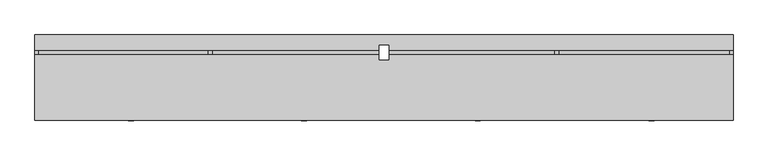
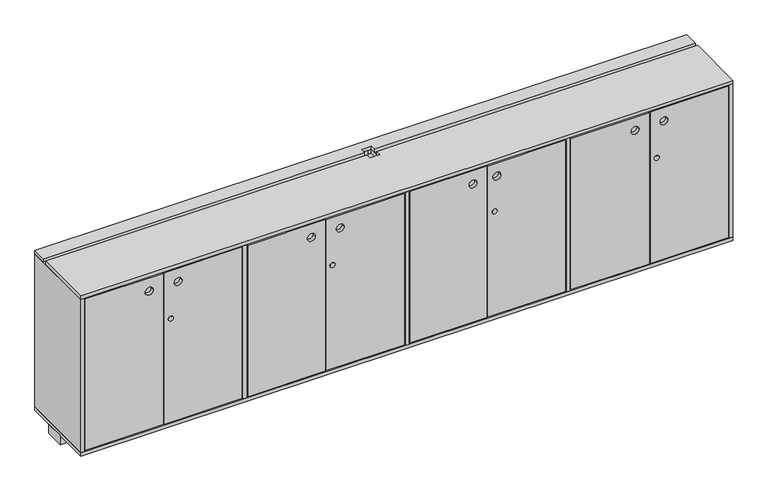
"""IFC4 building model written with IfcOpenShell, lengths in millimetres: furniture geometry, C15 Mueble mostrador 4 modulos : C15 Mueble mostrador 4 modulos."""

from ifc_helpers import new_model, si_unit, point, frame, frame_2d, origin, origin_with_axes, place, context, project, spatial, polyline, circle_curve, trimmed, segment, composite_curve, outline, extrude, source, transform, mapped, element, save


def furniture_98008c16(model_context):
    return source(origin(), model_context, "Body", "SweptSolid", [
        extrude(outline(composite_curve([segment(trimmed(circle_curve(frame_2d((624.0, 1298.8253264)), 12.5), [point((624.0, 1286.3253264))], [point((624.0, 1311.3253264))], False, "CARTESIAN"), True, "CONTINUOUS"), segment(trimmed(circle_curve(frame_2d((624.0, 1298.8253264)), 12.5), [point((624.0, 1311.3253264))], [point((624.0, 1286.3253264))], False, "CARTESIAN"), True, "CONTINUOUS")], self_intersect=False)), frame((0.0, -402.0, 0.0), z_axis=(0.0, 1.0, 0.0), x_axis=(0.0, 0.0, 1.0)), (0.0, 0.0, 1.0), 20.0),
        extrude(outline(composite_curve([segment(trimmed(circle_curve(frame_2d((624.0, 484.5753264)), 12.5), [point((624.0, 472.0753264))], [point((624.0, 497.0753264))], False, "CARTESIAN"), True, "CONTINUOUS"), segment(trimmed(circle_curve(frame_2d((624.0, 484.5753264)), 12.5), [point((624.0, 497.0753264))], [point((624.0, 472.0753264))], False, "CARTESIAN"), True, "CONTINUOUS")], self_intersect=False)), frame((0.0, -402.0, 0.0), z_axis=(0.0, 1.0, 0.0), x_axis=(0.0, 0.0, 1.0)), (0.0, 0.0, 1.0), 20.0),
        extrude(outline(composite_curve([segment(trimmed(circle_curve(frame_2d((624.0, -329.9246736)), 12.5), [point((624.0, -342.4246736))], [point((624.0, -317.4246736))], False, "CARTESIAN"), True, "CONTINUOUS"), segment(trimmed(circle_curve(frame_2d((624.0, -329.9246736)), 12.5), [point((624.0, -317.4246736))], [point((624.0, -342.4246736))], False, "CARTESIAN"), True, "CONTINUOUS")], self_intersect=False)), frame((0.0, -402.0, 0.0), z_axis=(0.0, 1.0, 0.0), x_axis=(0.0, 0.0, 1.0)), (0.0, 0.0, 1.0), 20.0),
        extrude(outline(composite_curve([segment(trimmed(circle_curve(frame_2d((624.0, -1141.6746736)), 12.5), [point((624.0, -1154.1746736))], [point((624.0, -1129.1746736))], False, "CARTESIAN"), True, "CONTINUOUS"), segment(trimmed(circle_curve(frame_2d((624.0, -1141.6746736)), 12.5), [point((624.0, -1129.1746736))], [point((624.0, -1154.1746736))], False, "CARTESIAN"), True, "CONTINUOUS")], self_intersect=False)), frame((0.0, -402.0, 0.0), z_axis=(0.0, 1.0, 0.0), x_axis=(0.0, 0.0, 1.0)), (0.0, 0.0, 1.0), 20.0),
        extrude(outline(polyline([(1682.2003264, -220.0), (-1592.7996736, -220.0), (-1592.7996736, -120.0), (-1542.7996736, -120.0), (-1542.7996736, -170.0), (1632.2003264, -170.0), (1632.2003264, -120.0), (1682.2003264, -120.0), (1682.2003264, -220.0)])), origin_with_axes(), (0.0, 0.0, 1.0), 50.0),
        extrude(outline(polyline([(877.0, 1266.3253264), (73.0, 1266.3253264), (73.0, 1659.2003264), (877.0, 1659.2003264), (877.0, 1266.3253264)]), holes=[composite_curve([segment(trimmed(circle_curve(frame_2d((807.0, 1336.3253264)), 20.0), [point((807.0, 1356.3253264))], [point((807.0, 1316.3253264))], True, "CARTESIAN"), True, "CONTINUOUS"), segment(trimmed(circle_curve(frame_2d((807.0, 1336.3253264)), 20.0), [point((807.0, 1316.3253264))], [point((807.0, 1356.3253264))], True, "CARTESIAN"), True, "CONTINUOUS")], self_intersect=False)]), frame((0.0, -400.0, 0.0), z_axis=(0.0, 1.0, 0.0), x_axis=(0.0, 0.0, 1.0)), (0.0, 0.0, 1.0), 18.0),
        extrude(outline(polyline([(877.0, 1261.3253264), (877.0, 868.4503264), (73.0, 868.4503264), (73.0, 1261.3253264), (877.0, 1261.3253264)]), holes=[composite_curve([segment(trimmed(circle_curve(frame_2d((807.0, 1191.3253264)), 20.0), [point((807.0, 1171.3253264))], [point((807.0, 1211.3253264))], True, "CARTESIAN"), True, "CONTINUOUS"), segment(trimmed(circle_curve(frame_2d((807.0, 1191.3253264)), 20.0), [point((807.0, 1211.3253264))], [point((807.0, 1171.3253264))], True, "CARTESIAN"), True, "CONTINUOUS")], self_intersect=False)]), frame((0.0, -400.0, 0.0), z_axis=(0.0, 1.0, 0.0), x_axis=(0.0, 0.0, 1.0)), (0.0, 0.0, 1.0), 18.0),
        extrude(outline(polyline([(877.0, 452.0753264), (73.0, 452.0753264), (73.0, 840.4503264), (877.0, 840.4503264), (877.0, 452.0753264)]), holes=[composite_curve([segment(trimmed(circle_curve(frame_2d((807.0, 496.7003264)), 20.0), [point((807.0, 516.7003264))], [point((807.0, 476.7003264))], True, "CARTESIAN"), True, "CONTINUOUS"), segment(trimmed(circle_curve(frame_2d((807.0, 496.7003264)), 20.0), [point((807.0, 476.7003264))], [point((807.0, 516.7003264))], True, "CARTESIAN"), True, "CONTINUOUS")], self_intersect=False)]), frame((0.0, -400.0, 0.0), z_axis=(0.0, 1.0, 0.0), x_axis=(0.0, 0.0, 1.0)), (0.0, 0.0, 1.0), 18.0),
        extrude(outline(polyline([(877.0, 447.0753264), (877.0, 58.7003264), (73.0, 58.7003264), (73.0, 447.0753264), (877.0, 447.0753264)]), holes=[composite_curve([segment(trimmed(circle_curve(frame_2d((807.0, 377.0753264)), 20.0), [point((807.0, 357.0753264))], [point((807.0, 397.0753264))], True, "CARTESIAN"), True, "CONTINUOUS"), segment(trimmed(circle_curve(frame_2d((807.0, 377.0753264)), 20.0), [point((807.0, 397.0753264))], [point((807.0, 357.0753264))], True, "CARTESIAN"), True, "CONTINUOUS")], self_intersect=False)]), frame((0.0, -400.0, 0.0), z_axis=(0.0, 1.0, 0.0), x_axis=(0.0, 0.0, 1.0)), (0.0, 0.0, 1.0), 18.0),
        extrude(outline(polyline([(877.0, -359.9246736), (73.0, -359.9246736), (73.0, 30.7003264), (877.0, 30.7003264), (877.0, -359.9246736)]), holes=[composite_curve([segment(trimmed(circle_curve(frame_2d((807.0, -289.9246736)), 20.0), [point((807.0, -269.9246736))], [point((807.0, -309.9246736))], True, "CARTESIAN"), True, "CONTINUOUS"), segment(trimmed(circle_curve(frame_2d((807.0, -289.9246736)), 20.0), [point((807.0, -309.9246736))], [point((807.0, -269.9246736))], True, "CARTESIAN"), True, "CONTINUOUS")], self_intersect=False)]), frame((0.0, -400.0, 0.0), z_axis=(0.0, 1.0, 0.0), x_axis=(0.0, 0.0, 1.0)), (0.0, 0.0, 1.0), 18.0),
        extrude(outline(polyline([(877.0, -364.9246736), (877.0, -755.5496736), (73.0, -755.5496736), (73.0, -364.9246736), (877.0, -364.9246736)]), holes=[composite_curve([segment(trimmed(circle_curve(frame_2d((807.0, -434.9246736)), 20.0), [point((807.0, -454.9246736))], [point((807.0, -414.9246736))], True, "CARTESIAN"), True, "CONTINUOUS"), segment(trimmed(circle_curve(frame_2d((807.0, -434.9246736)), 20.0), [point((807.0, -414.9246736))], [point((807.0, -454.9246736))], True, "CARTESIAN"), True, "CONTINUOUS")], self_intersect=False)]), frame((0.0, -400.0, 0.0), z_axis=(0.0, 1.0, 0.0), x_axis=(0.0, 0.0, 1.0)), (0.0, 0.0, 1.0), 18.0),
        extrude(outline(polyline([(877.0, -1174.1746736), (73.0, -1174.1746736), (73.0, -783.5496736), (877.0, -783.5496736), (877.0, -1174.1746736)]), holes=[composite_curve([segment(trimmed(circle_curve(frame_2d((807.0, -1104.1746736)), 20.0), [point((807.0, -1084.1746736))], [point((807.0, -1124.1746736))], True, "CARTESIAN"), True, "CONTINUOUS"), segment(trimmed(circle_curve(frame_2d((807.0, -1104.1746736)), 20.0), [point((807.0, -1124.1746736))], [point((807.0, -1084.1746736))], True, "CARTESIAN"), True, "CONTINUOUS")], self_intersect=False)]), frame((0.0, -400.0, 0.0), z_axis=(0.0, 1.0, 0.0), x_axis=(0.0, 0.0, 1.0)), (0.0, 0.0, 1.0), 18.0),
        extrude(outline(polyline([(877.0, -1179.1746736), (877.0, -1569.7996736), (73.0, -1569.7996736), (73.0, -1179.1746736), (877.0, -1179.1746736)]), holes=[composite_curve([segment(trimmed(circle_curve(frame_2d((807.0, -1249.1746736)), 20.0), [point((807.0, -1269.1746736))], [point((807.0, -1229.1746736))], True, "CARTESIAN"), True, "CONTINUOUS"), segment(trimmed(circle_curve(frame_2d((807.0, -1249.1746736)), 20.0), [point((807.0, -1229.1746736))], [point((807.0, -1269.1746736))], True, "CARTESIAN"), True, "CONTINUOUS")], self_intersect=False)]), frame((0.0, -400.0, 0.0), z_axis=(0.0, 1.0, 0.0), x_axis=(0.0, 0.0, 1.0)), (0.0, 0.0, 1.0), 18.0),
        extrude(outline(polyline([(845.4503264, -18.0), (845.4503264, -382.0), (825.4503264, -382.0), (825.4503264, -38.0), (53.7003264, -38.0), (53.7003264, -18.0), (845.4503264, -18.0)])), frame((0.0, 0.0, 428.0), z_axis=(0.0, 0.0, 1.0), x_axis=(1.0, 0.0, 0.0)), (0.0, 0.0, 1.0), 20.0),
        extrude(outline(polyline([(53.7003264, -120.0), (73.7003264, -120.0), (73.7003264, -382.0), (53.7003264, -382.0), (53.7003264, -120.0)])), frame((0.0, 0.0, 428.0), z_axis=(0.0, 0.0, 1.0), x_axis=(1.0, 0.0, 0.0)), (0.0, 0.0, 1.0), 20.0),
        extrude(outline(polyline([(-760.5496736, -18.0), (35.7003264, -18.0), (35.7003264, -38.0), (-740.5496736, -38.0), (-740.5496736, -382.0), (-760.5496736, -382.0), (-760.5496736, -18.0)])), frame((0.0, 0.0, 428.0), z_axis=(0.0, 0.0, 1.0), x_axis=(1.0, 0.0, 0.0)), (0.0, 0.0, 1.0), 20.0),
        extrude(outline(polyline([(35.7003264, -120.0), (35.7003264, -382.0), (15.7003264, -382.0), (15.7003264, -120.0), (35.7003264, -120.0)])), frame((0.0, 0.0, 428.0), z_axis=(0.0, 0.0, 1.0), x_axis=(1.0, 0.0, 0.0)), (0.0, 0.0, 1.0), 20.0),
        extrude(outline(polyline([(1664.2003264, -18.0), (1664.2003264, -382.0), (1644.2003264, -382.0), (1644.2003264, -38.0), (883.4503264, -38.0), (883.4503264, -382.0), (863.4503264, -382.0), (863.4503264, -18.0), (1664.2003264, -18.0)])), frame((0.0, 0.0, 428.0), z_axis=(0.0, 0.0, 1.0), x_axis=(1.0, 0.0, 0.0)), (0.0, 0.0, 1.0), 20.0),
        extrude(outline(polyline([(-1574.7996736, -18.0), (-778.5496736, -18.0), (-778.5496736, -382.0), (-798.5496736, -382.0), (-798.5496736, -38.0), (-1554.7996736, -38.0), (-1554.7996736, -382.0), (-1574.7996736, -382.0), (-1574.7996736, -18.0)])), frame((0.0, 0.0, 428.0), z_axis=(0.0, 0.0, 1.0), x_axis=(1.0, 0.0, 0.0)), (0.0, 0.0, 1.0), 20.0),
        extrude(outline(polyline([(-760.5496736, -18.0), (19.7003264, -18.0), (19.7003264, -45.0), (19.7003264, -120.0), (35.7003264, -120.0), (35.7003264, -382.0), (-760.5496736, -382.0), (-760.5496736, -18.0)])), frame((0.0, 0.0, 448.0), z_axis=(0.0, 0.0, 1.0), x_axis=(1.0, 0.0, 0.0)), (0.0, 0.0, 1.0), 18.0),
        extrude(outline(polyline([(845.4503264, -18.0), (845.4503264, -382.0), (53.7003264, -382.0), (53.7003264, -120.0), (69.7003264, -120.0), (69.7003264, -45.0), (69.7003264, -18.0), (845.4503264, -18.0)])), frame((0.0, 0.0, 448.0), z_axis=(0.0, 0.0, 1.0), x_axis=(1.0, 0.0, 0.0)), (0.0, 0.0, 1.0), 18.0),
        extrude(outline(polyline([(1664.2003264, -18.0), (1664.2003264, -382.0), (863.4503264, -382.0), (863.4503264, -18.0), (1664.2003264, -18.0)])), frame((0.0, 0.0, 448.0), z_axis=(0.0, 0.0, 1.0), x_axis=(1.0, 0.0, 0.0)), (0.0, 0.0, 1.0), 18.0),
        extrude(outline(polyline([(-778.5496736, -18.0), (-778.5496736, -382.0), (-1574.7996736, -382.0), (-1574.7996736, -18.0), (-778.5496736, -18.0)])), frame((0.0, 0.0, 448.0), z_axis=(0.0, 0.0, 1.0), x_axis=(1.0, 0.0, 0.0)), (0.0, 0.0, 1.0), 18.0),
        extrude(outline(polyline([(-760.5496736, -18.0), (-760.5496736, -400.0), (-778.5496736, -400.0), (-778.5496736, -18.0), (-760.5496736, -18.0)])), frame((0.0, 0.0, 68.0), z_axis=(0.0, 0.0, 1.0), x_axis=(1.0, 0.0, 0.0)), (0.0, 0.0, 1.0), 814.0),
        extrude(outline(polyline([(53.7003264, -120.0), (53.7003264, -400.0), (35.7003264, -400.0), (35.7003264, -120.0), (53.7003264, -120.0)])), frame((0.0, 0.0, 68.0), z_axis=(0.0, 0.0, 1.0), x_axis=(1.0, 0.0, 0.0)), (0.0, 0.0, 1.0), 814.0),
        extrude(outline(polyline([(863.4503264, -18.0), (863.4503264, -400.0), (845.4503264, -400.0), (845.4503264, -18.0), (863.4503264, -18.0)])), frame((0.0, 0.0, 68.0), z_axis=(0.0, 0.0, 1.0), x_axis=(1.0, 0.0, 0.0)), (0.0, 0.0, 1.0), 814.0),
        extrude(outline(polyline([(53.7003264, -18.0), (53.7003264, -45.0), (35.7003264, -45.0), (35.7003264, -18.0), (53.7003264, -18.0)])), frame((0.0, 0.0, 68.0), z_axis=(0.0, 0.0, 1.0), x_axis=(1.0, 0.0, 0.0)), (0.0, 0.0, 1.0), 814.0),
        extrude(outline(polyline([(1664.2003264, -18.0), (-1574.7996736, -18.0), (-1574.7996736, 0.0), (1664.2003264, 0.0), (1664.2003264, -18.0)])), frame((0.0, 0.0, 68.0), z_axis=(0.0, 0.0, 1.0), x_axis=(1.0, 0.0, 0.0)), (0.0, 0.0, 1.0), 814.0),
        extrude(outline(polyline([(-1574.7996736, -18.0), (-778.5496736, -18.0), (-778.5496736, -382.0), (-1574.7996736, -382.0), (-1574.7996736, -18.0)])), frame((0.0, 0.0, 864.0), z_axis=(0.0, 0.0, 1.0), x_axis=(1.0, 0.0, 0.0)), (0.0, 0.0, 1.0), 18.0),
        extrude(outline(polyline([(1664.2003264, -382.0), (863.4503264, -382.0), (863.4503264, -18.0), (1664.2003264, -18.0), (1664.2003264, -382.0)])), frame((0.0, 0.0, 864.0), z_axis=(0.0, 0.0, 1.0), x_axis=(1.0, 0.0, 0.0)), (0.0, 0.0, 1.0), 18.0),
        extrude(outline(polyline([(19.7003264, -45.0), (19.7003264, -120.0), (35.7003264, -120.0), (35.7003264, -382.0), (-760.5496736, -382.0), (-760.5496736, -18.0), (35.7003264, -18.0), (35.7003264, -45.0), (19.7003264, -45.0)])), frame((0.0, 0.0, 864.0), z_axis=(0.0, 0.0, 1.0), x_axis=(1.0, 0.0, 0.0)), (0.0, 0.0, 1.0), 18.0),
        extrude(outline(polyline([(69.7003264, -120.0), (69.7003264, -45.0), (53.7003264, -45.0), (53.7003264, -18.0), (845.4503264, -18.0), (845.4503264, -382.0), (53.7003264, -382.0), (53.7003264, -120.0), (69.7003264, -120.0)])), frame((0.0, 0.0, 864.0), z_axis=(0.0, 0.0, 1.0), x_axis=(1.0, 0.0, 0.0)), (0.0, 0.0, 1.0), 18.0),
        extrude(outline(polyline([(1682.2003264, 0.0), (1682.2003264, -72.5), (69.7003264, -72.5), (69.7003264, -45.0), (19.7003264, -45.0), (19.7003264, -72.5), (-1592.7996736, -72.5), (-1592.7996736, 0.0), (1682.2003264, 0.0)])), frame((0.0, 0.0, 882.0), z_axis=(0.0, 0.0, 1.0), x_axis=(1.0, 0.0, 0.0)), (0.0, 0.0, 1.0), 18.0),
        extrude(outline(polyline([(1682.2003264, -400.0), (-1592.7996736, -400.0), (-1592.7996736, -92.5), (19.7003264, -92.5), (19.7003264, -120.0), (69.7003264, -120.0), (69.7003264, -92.5), (1682.2003264, -92.5), (1682.2003264, -400.0)])), frame((0.0, 0.0, 882.0), z_axis=(0.0, 0.0, 1.0), x_axis=(1.0, 0.0, 0.0)), (0.0, 0.0, 1.0), 18.0),
        extrude(outline(polyline([(1682.2003264, 0.0), (1682.2003264, -400.0), (-1592.7996736, -400.0), (-1592.7996736, 0.0), (1682.2003264, 0.0)]), holes=[polyline([(69.7003264, -45.0), (19.7003264, -45.0), (19.7003264, -120.0), (69.7003264, -120.0), (69.7003264, -45.0)])]), frame((0.0, 0.0, 50.0), z_axis=(0.0, 0.0, 1.0), x_axis=(1.0, 0.0, 0.0)), (0.0, 0.0, 1.0), 18.0),
        extrude(outline(polyline([(-1574.7996736, -400.0), (-1592.7996736, -400.0), (-1592.7996736, 0.0), (-1574.7996736, 0.0), (-1574.7996736, -400.0)])), frame((0.0, 0.0, 68.0), z_axis=(0.0, 0.0, 1.0), x_axis=(1.0, 0.0, 0.0)), (0.0, 0.0, 1.0), 814.0),
        extrude(outline(polyline([(1682.2003264, -400.0), (1664.2003264, -400.0), (1664.2003264, 0.0), (1682.2003264, 0.0), (1682.2003264, -400.0)])), frame((0.0, 0.0, 68.0), z_axis=(0.0, 0.0, 1.0), x_axis=(1.0, 0.0, 0.0)), (0.0, 0.0, 1.0), 814.0),
    ])


if __name__ == "__main__":
    model = new_model("IFC4")
    model_context = context("Model", 3, world=origin())
    ifc_project = project(units=[si_unit("LENGTHUNIT", "METRE", prefix="MILLI")], contexts=[model_context])
    site = spatial("IfcSite", under=ifc_project)
    building = spatial("IfcBuilding", under=site)
    placement = place(None, origin())
    furniture_shape = furniture_98008c16(model_context)
    element("IfcFurniture", 1, ObjectType="C15 Mueble mostrador 4 modulos : C15 Mueble mostrador 4 modulos", at=placement, inside=building, context=model_context, shape_type="MappedRepresentation", body=[
        mapped(furniture_shape, transform((0.0, 0.0, 0.0), x_axis=(1.0, 0.0, 0.0), y_axis=(0.0, 1.0, 0.0), z_axis=(0.0, 0.0, 1.0))),
    ])
    save(model, "model.ifc")
